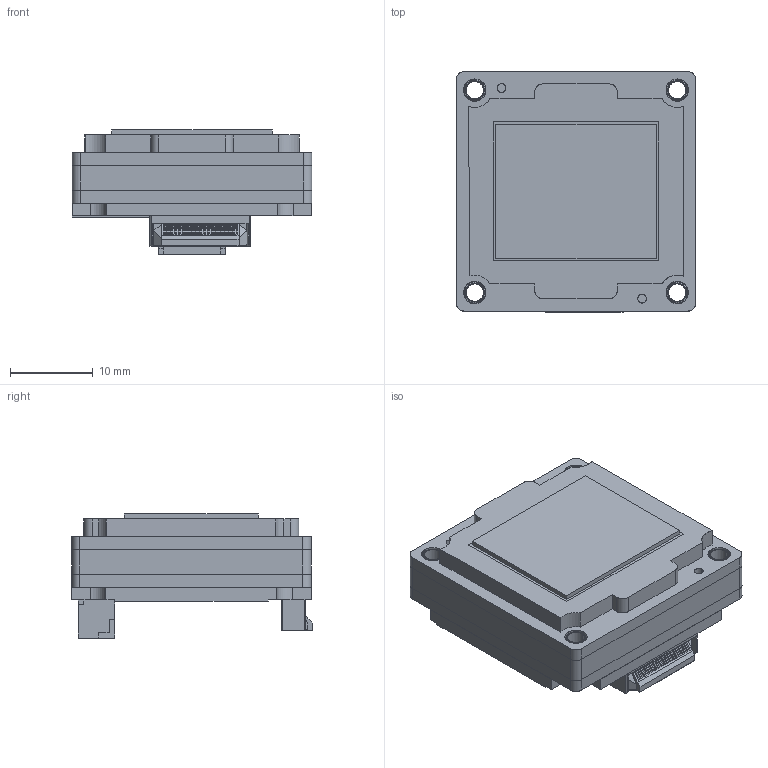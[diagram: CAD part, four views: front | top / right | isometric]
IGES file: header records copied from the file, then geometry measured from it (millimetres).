
Start section: SolidWorks IGES file using analytic representation for surfaces
Global section: file name: F:\mechanical\Documentation\BFS-BD\Models\steps\BFS-U3-50S4M(C)-BD2.IGS; native system: SolidWorks 2020; preprocessor: SolidWorks 2020; author: DChou; date: 231127.112048; units: millimetre
Bounding box: 29 x 29.14 x 15.03 mm (x, y, z)
Surface area: 11043.5 mm2 (no closed solid volume)
Topology: 0 solids, 0 shells, 1081 faces, 8240 edges, 8228 vertices
Faces by surface type: bspline 843, revolution 238
